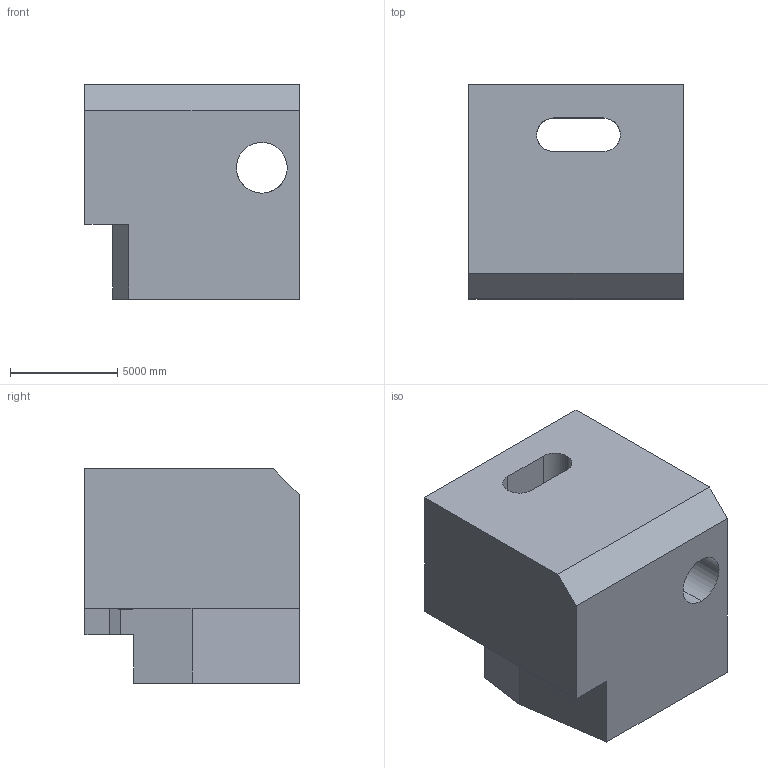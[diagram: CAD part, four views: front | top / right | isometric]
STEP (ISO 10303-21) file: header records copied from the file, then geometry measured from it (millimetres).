
FILE_DESCRIPTION (( 'STEP AP203' ), '1' );
FILE_NAME ('1672.STEP', '2022-08-25T15:24:25', ( 'user' ), ( '' ), 'SwSTEP 2.0', 'SolidWorks 2021', '' );
FILE_SCHEMA (( 'CONFIG_CONTROL_DESIGN' ));
Length unit declared in the file: centimetre
Products named in the file (1): 1672
Bounding box: 10000 x 10000 x 10000 mm (x, y, z)
Volume: 762262971739.3 mm3; surface area: 728556104.4 mm2
Topology: 1 solids, 1 shells, 36 faces, 120 edges, 80 vertices
Faces by surface type: plane 25, cylinder 11
Entity records: 2377 total; most frequent: CARTESIAN_POINT 1269, ORIENTED_EDGE 240, DIRECTION 188, EDGE_CURVE 120, LINE 82, VECTOR 82, VERTEX_POINT 80, AXIS2_PLACEMENT_3D 53
